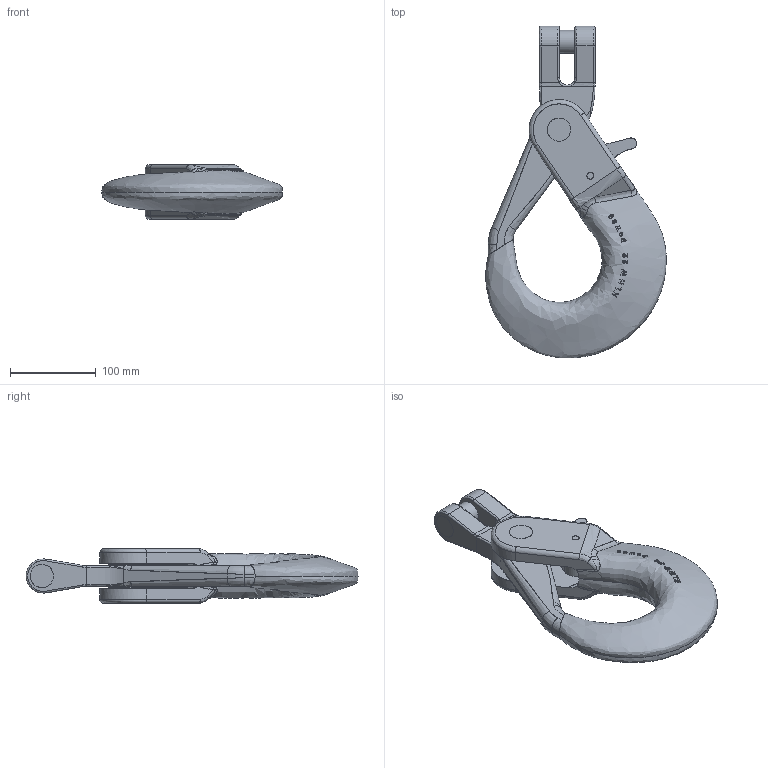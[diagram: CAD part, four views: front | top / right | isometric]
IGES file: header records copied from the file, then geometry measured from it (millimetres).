
Global section: file name: C:\Dokumente und Einstellungen\kse\Desktop\UG_Plots\KLHW 22_Kundenmodell zusammenbau.igs; native system: NX V7.5; preprocessor: SIEMENS PLM Software NX 7.5; date: 20111223.142839; units: millimetre
Bounding box: 210.97 x 387.51 x 64 mm (x, y, z)
Surface area: 193250.4 mm2 (no closed solid volume)
Topology: 0 solids, 0 shells, 310 faces, 2270 edges, 2264 vertices
Faces by surface type: bspline 299, offset 11
